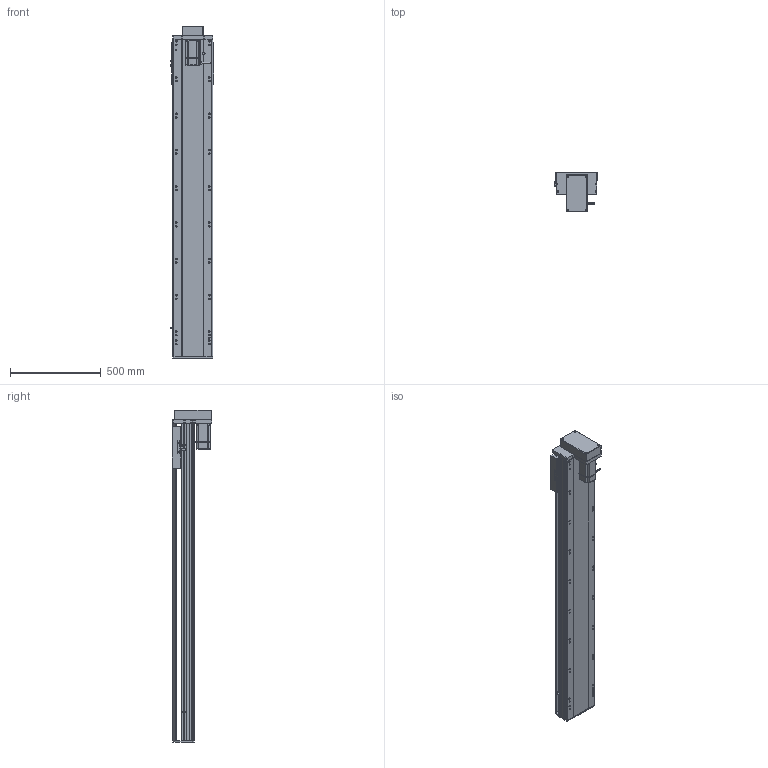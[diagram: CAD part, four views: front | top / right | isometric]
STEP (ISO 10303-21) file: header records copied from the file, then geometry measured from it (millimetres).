
FILE_DESCRIPTION (( 'STEP AP214' ), '1' );
FILE_NAME ('RTH22-XX-1450-M-M75-C4.STEP', '2025-10-24T11:15:17', ( 'Microsoft' ), ( 'Microsoft' ), 'SwSTEP 2.0', 'SolidWorks 2018', '' );
FILE_SCHEMA (( 'AUTOMOTIVE_DESIGN' ));
Length unit declared in the file: millimetre
Products named in the file (10): N_OMRON EE-SX672 传感器^RTH22-XX-XX-M-M75-C4; RTH22-XX-1450-M-M75-C4; N_750W萇儂^RTH22-XX-XX-M-M75-C4; N_RTH22-GY-001耜裔^RTH22-XX-XX-M-M75-C4; N_RTH22-L-004-SFS25賑釱^RTH22-XX-XX-M-M75-C4; N_RTH22-M-007奻裔^RTH22-XX-XX-M-M75-C4; N_RTH22-M-018裔赽^RTH22-XX-XX-M-M75-C4; N_RTH22-GY-013外置感应片^RTH22-XX-XX-M-M75-C4; N_RTH22-M-008-P75萇儂啣^RTH22-XX-XX-M-M75-C4; N_RTH22-L-011菁釱^RTH22-XX-XX-M-M75-C4
Assembly tree (11 placements, depth 2):
  RTH22-XX-1450-M-M75-C4
    N_RTH22-L-011菁釱^RTH22-XX-XX-M-M75-C4
    N_RTH22-GY-001耜裔^RTH22-XX-XX-M-M75-C4
    N_750W萇儂^RTH22-XX-XX-M-M75-C4
    N_RTH22-M-008-P75萇儂啣^RTH22-XX-XX-M-M75-C4
    N_RTH22-M-007奻裔^RTH22-XX-XX-M-M75-C4
    N_RTH22-M-018裔赽^RTH22-XX-XX-M-M75-C4
    N_OMRON EE-SX672 传感器^RTH22-XX-XX-M-M75-C4  x3
    N_RTH22-GY-013外置感应片^RTH22-XX-XX-M-M75-C4
    N_RTH22-L-004-SFS25賑釱^RTH22-XX-XX-M-M75-C4
Bounding box: 238.5 x 218.5 x 1829.7 mm (x, y, z)
Volume: 24088935.3 mm3; surface area: 2588164.7 mm2
Topology: 11 solids, 11 shells, 1677 faces, 4580 edges, 2945 vertices
Faces by surface type: plane 813, cylinder 511, bspline 279, cone 74
Entity records: 42973 total; most frequent: CARTESIAN_POINT 12808, ORIENTED_EDGE 6104, DIRECTION 5826, EDGE_CURVE 3052, AXIS2_PLACEMENT_3D 1983, VERTEX_POINT 1981, VECTOR 1860, LINE 1860
